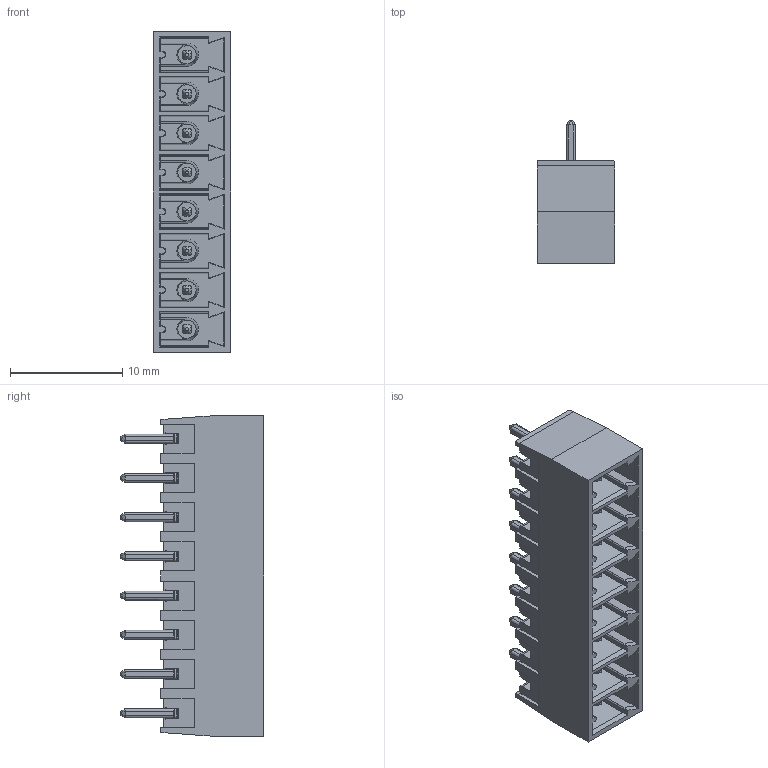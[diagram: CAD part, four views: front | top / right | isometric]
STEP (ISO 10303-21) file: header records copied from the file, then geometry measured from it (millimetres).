
FILE_DESCRIPTION (( 'STEP AP214' ), '1' );
FILE_NAME ('110-M-121-08.STEP', '2007-11-20T03:20:39', ( ' ' ), ( '' ), 'SwSTEP 2.0', 'SolidWorks 2007', '' );
FILE_SCHEMA (( 'AUTOMOTIVE_DESIGN' ));
Length unit declared in the file: millimetre
Products named in the file (1): 110-M-121-08
Bounding box: 6.9 x 12.8 x 28.6 mm (x, y, z)
Volume: 752.8 mm3; surface area: 2682.4 mm2
Topology: 1 solids, 1 shells, 1312 faces, 4017 edges, 2579 vertices
Faces by surface type: plane 874, cylinder 391, cone 47
Entity records: 46946 total; most frequent: CARTESIAN_POINT 14464, ORIENTED_EDGE 8034, DIRECTION 4937, EDGE_CURVE 4017, VERTEX_POINT 2579, VECTOR 2181, LINE 2181, B_SPLINE_CURVE_WITH_KNOTS 1771
